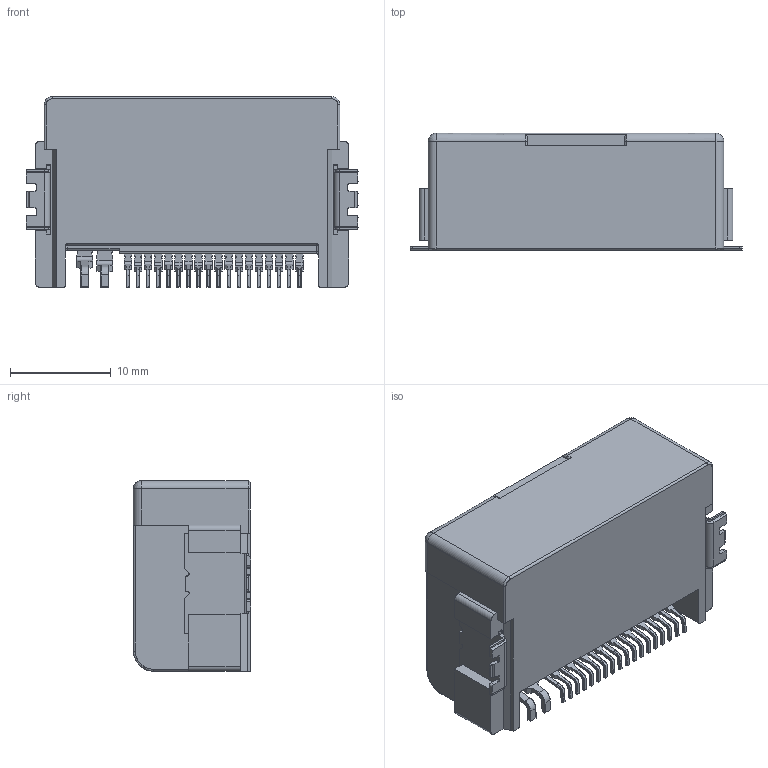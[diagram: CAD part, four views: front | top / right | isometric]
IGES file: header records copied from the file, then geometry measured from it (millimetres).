
Start section: SolidWorks IGES file using analytic representation for surfaces
Bounding box: 32.95 x 11.65 x 18.9 mm (x, y, z)
Surface area: 2477 mm2 (no closed solid volume)
Topology: 0 solids, 0 shells, 1204 faces, 7592 edges, 7584 vertices
Faces by surface type: bspline 880, revolution 324
